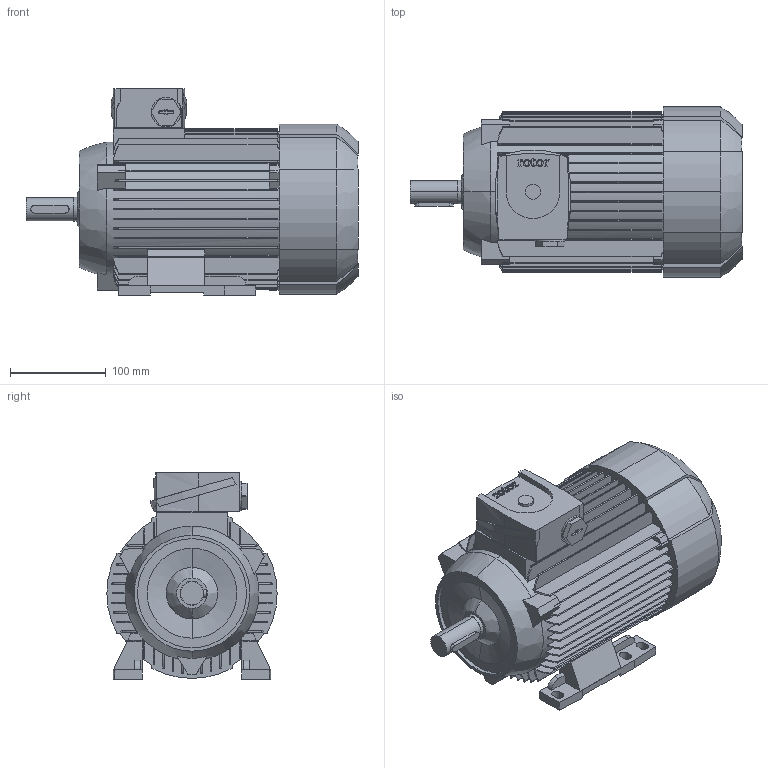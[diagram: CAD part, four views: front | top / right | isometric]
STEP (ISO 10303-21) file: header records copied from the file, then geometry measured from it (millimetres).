
FILE_DESCRIPTION (( 'STEP AP214' ), '1' );
FILE_NAME ('6RN90S04E20 IM1001.STEP', '2014-09-19T13:45:05', ( 'rbc_ict' ), ( 'REGAL' ), 'SwSTEP 2.0', 'SolidWorks 2012', '' );
FILE_SCHEMA (( 'AUTOMOTIVE_DESIGN' ));
Length unit declared in the file: millimetre
Products named in the file (1): 6RN90S04E20 IM1001
Bounding box: 347 x 178 x 216 mm (x, y, z)
Volume: 5787092.6 mm3; surface area: 456724.7 mm2
Topology: 1 solids, 1 shells, 640 faces, 1864 edges, 1240 vertices
Faces by surface type: plane 378, bspline 135, cylinder 123, cone 4
Entity records: 24824 total; most frequent: CARTESIAN_POINT 8467, ORIENTED_EDGE 3728, DIRECTION 3042, EDGE_CURVE 1864, VERTEX_POINT 1240, VECTOR 1070, LINE 1070, AXIS2_PLACEMENT_3D 986
